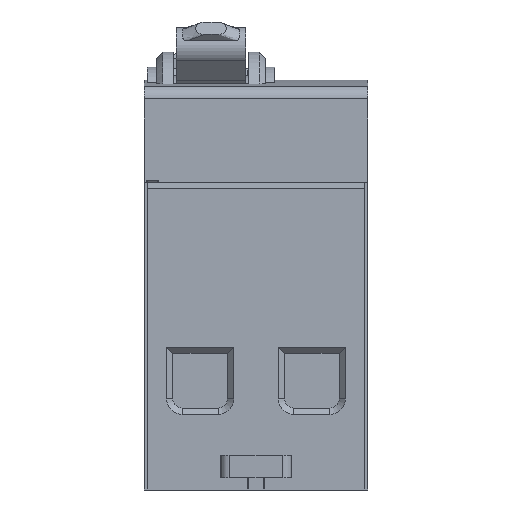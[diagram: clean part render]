
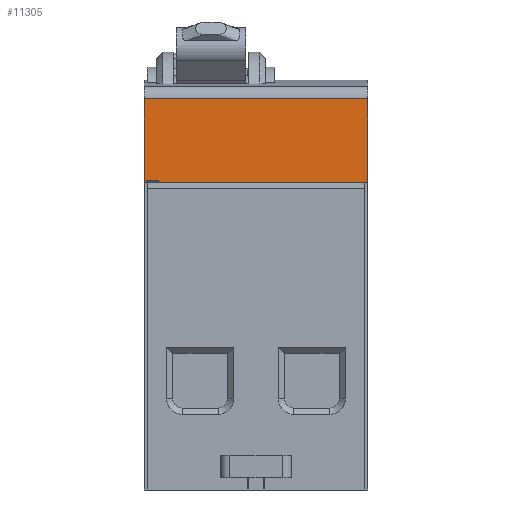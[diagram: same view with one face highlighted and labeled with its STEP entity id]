
A CAD part, front view. The second image highlights one B-rep face of the part: STEP entity #11305.
In plain terms, the highlighted planar face has unit normal (0, -1, 0).
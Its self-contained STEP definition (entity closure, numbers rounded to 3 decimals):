
#200 = VERTEX_POINT ( 'NONE', #1956 ) ;
#299 = VERTEX_POINT ( 'NONE', #1920 ) ;
#596 = VERTEX_POINT ( 'NONE', #3901 ) ;
#1121 = VERTEX_POINT ( 'NONE', #3825 ) ;
#1920 = CARTESIAN_POINT ( 'NONE',  ( -18., -22.5, 29.995 ) ) ;
#1956 = CARTESIAN_POINT ( 'NONE',  ( 18., -22.5, 16.5 ) ) ;
#2095 = ORIENTED_EDGE ( 'NONE', *, *, #10413, .T. ) ;
#2243 = ORIENTED_EDGE ( 'NONE', *, *, #10758, .T. ) ;
#2244 = ORIENTED_EDGE ( 'NONE', *, *, #9955, .T. ) ;
#2248 = ORIENTED_EDGE ( 'NONE', *, *, #10270, .F. ) ;
#2515 = DIRECTION ( 'NONE',  ( -1., 0., 0. ) ) ;
#2516 = CARTESIAN_POINT ( 'NONE',  ( 62.257, -22.5, 16.5 ) ) ;
#2517 = LINE ( 'NONE', #2516, #12554 ) ;
#3825 = CARTESIAN_POINT ( 'NONE',  ( 18., -22.5, 29.995 ) ) ;
#3901 = CARTESIAN_POINT ( 'NONE',  ( -18., -22.5, 16.5 ) ) ;
#5534 = AXIS2_PLACEMENT_3D ( 'NONE', #7357, #7358, #7359 ) ;
#5537 = FACE_OUTER_BOUND ( 'NONE', #15617, .T. ) ;
#6022 = VECTOR ( 'NONE', #9214, 1000. ) ;
#6218 = VECTOR ( 'NONE', #14229, 1000. ) ;
#7356 = PLANE ( 'NONE',  #5534 ) ;
#7357 = CARTESIAN_POINT ( 'NONE',  ( 62.257, -22.5, 16.5 ) ) ;
#7358 = DIRECTION ( 'NONE',  ( 0., 1., 0. ) ) ;
#7359 = DIRECTION ( 'NONE',  ( 0., 0., 1. ) ) ;
#7686 = DIRECTION ( 'NONE',  ( 0., 0., -1. ) ) ;
#7687 = CARTESIAN_POINT ( 'NONE',  ( -18., -22.5, 16.5 ) ) ;
#7688 = LINE ( 'NONE', #7687, #12296 ) ;
#9212 = CARTESIAN_POINT ( 'NONE',  ( -18., -22.5, 29.995 ) ) ;
#9214 = DIRECTION ( 'NONE',  ( -1., 0., 0. ) ) ;
#9223 = LINE ( 'NONE', #9212, #6022 ) ;
#9955 = EDGE_CURVE ( 'NONE', #200, #1121, #14230, .T. ) ;
#10270 = EDGE_CURVE ( 'NONE', #200, #596, #2517, .T. ) ;
#10413 = EDGE_CURVE ( 'NONE', #299, #596, #7688, .T. ) ;
#10758 = EDGE_CURVE ( 'NONE', #1121, #299, #9223, .T. ) ;
#11305 = ADVANCED_FACE ( 'NONE', ( #5537 ), #7356, .F. ) ;
#12296 = VECTOR ( 'NONE', #7686, 1000. ) ;
#12554 = VECTOR ( 'NONE', #2515, 1000. ) ;
#14228 = CARTESIAN_POINT ( 'NONE',  ( 18., -22.5, 16.5 ) ) ;
#14229 = DIRECTION ( 'NONE',  ( 0., 0., 1. ) ) ;
#14230 = LINE ( 'NONE', #14228, #6218 ) ;
#15617 = EDGE_LOOP ( 'NONE', ( #2244, #2243, #2095, #2248 ) ) ;
